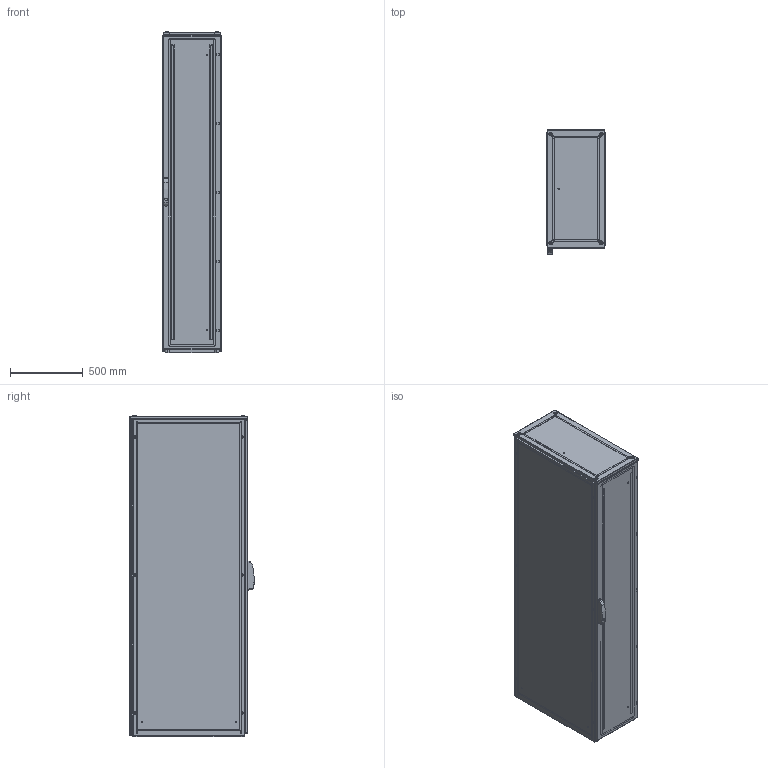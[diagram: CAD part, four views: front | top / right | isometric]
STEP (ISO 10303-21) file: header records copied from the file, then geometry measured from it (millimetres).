
FILE_DESCRIPTION(/* description */ ('STEP AP214'),/* implementation_level */ '2;1');
FILE_NAME(/* name */ 'ENUX042208PR-LOD350',/* time_stamp */ '2025-08-05T08:28:50+02:00',/* author */ ('License CC BY-ND 4.0'),/* organization */ ('CADENAS'),/* preprocessor_version */ 'ST-DEVELOPER v19.3',/* originating_system */ 'PARTsolutions',/* authorisation */ ' ');
FILE_SCHEMA (('AUTOMOTIVE_DESIGN {1 0 10303 214 3 1 1}'));
Length unit declared in the file: millimetre
Products named in the file (10): ENUX042208PR-LOD350; ENUX042208PR-LOD350_CON; ENUX042208PR-LOD350_floor1; ENUX042208PR-LOD350_floor2; Screw M12x30 architecture 350; ENUX042208PR-LOD350_side; ENUX042208PR-LOD350_top; ENUX042208PR-LOD350_back_door; ENUX042208PR-LOD350_door; ENUX042208PR-LOD350_handle
Assembly tree (18 placements, depth 2):
  ENUX042208PR-LOD350
    ENUX042208PR-LOD350_CON
    ENUX042208PR-LOD350_floor1  x2
    ENUX042208PR-LOD350_floor2  x5
    Screw M12x30 architecture 350  x4
    ENUX042208PR-LOD350_side  x2
    ENUX042208PR-LOD350_top
    ENUX042208PR-LOD350_back_door
    ENUX042208PR-LOD350_door
    ENUX042208PR-LOD350_handle
Bounding box: 412 x 857 x 2214.1 mm (x, y, z)
Volume: 20523755.5 mm3; surface area: 17821272.2 mm2
Topology: 18 solids, 18 shells, 1868 faces, 5233 edges, 3408 vertices
Faces by surface type: plane 954, cylinder 739, cone 83, torus 76, sphere 16
Full cylindrical faces by diameter (mm): 4.5 x120, 6 x14, 6.8 x8, 9 x9, 12 x16, 13 x4, 18 x1, 21 x4
Entity records: 46655 total; most frequent: CARTESIAN_POINT 8089, DIRECTION 8081, ORIENTED_EDGE 7584, EDGE_CURVE 3792, AXIS2_PLACEMENT_3D 2882, VERTEX_POINT 2649, LINE 2317, VECTOR 2317
